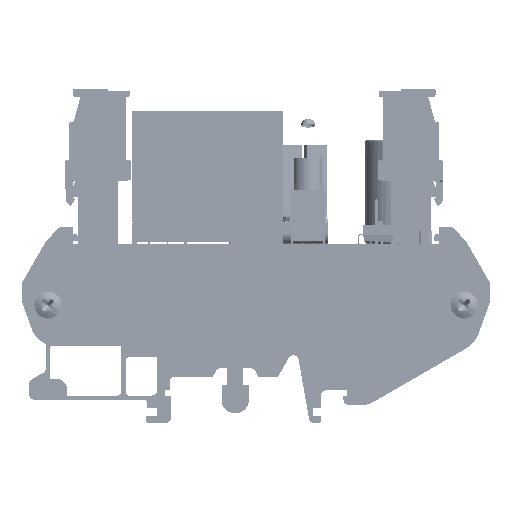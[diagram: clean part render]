
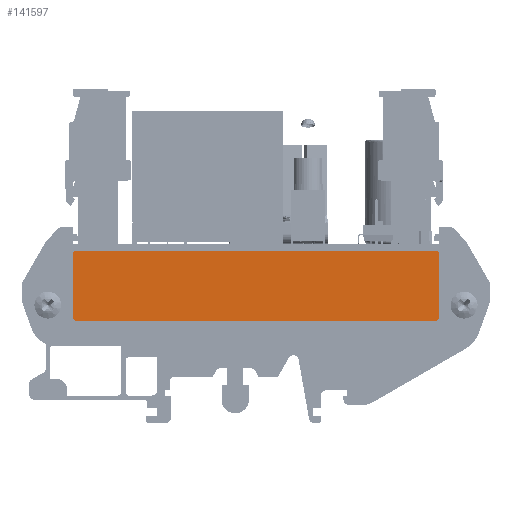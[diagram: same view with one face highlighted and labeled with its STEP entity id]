
A CAD part, left-side view. The second image highlights one B-rep face of the part: STEP entity #141597.
In plain terms, the highlighted planar face has unit normal (-1, 0, 0).
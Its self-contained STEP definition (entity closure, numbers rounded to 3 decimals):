
#3959=FACE_OUTER_BOUND('',#11402,.T.);
#11402=EDGE_LOOP('',(#89903,#89904,#89905,#89906,#89907,#89908,#89909,#89910));
#19590=CIRCLE('',#149146,0.5);
#19709=CIRCLE('',#149396,0.5);
#19711=CIRCLE('',#149402,0.5);
#19725=CIRCLE('',#149455,0.5);
#24145=LINE('',#200545,#39234);
#24519=LINE('',#201544,#39608);
#24522=LINE('',#201552,#39611);
#24593=LINE('',#201724,#39682);
#39234=VECTOR('',#161742,1000.);
#39608=VECTOR('',#162654,1000.);
#39611=VECTOR('',#162659,1000.);
#39682=VECTOR('',#162846,1000.);
#54378=VERTEX_POINT('',#200542);
#54379=VERTEX_POINT('',#200544);
#54395=VERTEX_POINT('',#200595);
#54733=VERTEX_POINT('',#201535);
#54735=VERTEX_POINT('',#201542);
#54738=VERTEX_POINT('',#201549);
#54739=VERTEX_POINT('',#201551);
#54782=VERTEX_POINT('',#201719);
#68093=EDGE_CURVE('',#54378,#54379,#24145,.T.);
#68119=EDGE_CURVE('',#54379,#54395,#19590,.T.);
#68591=EDGE_CURVE('',#54733,#54378,#19709,.T.);
#68594=EDGE_CURVE('',#54735,#54733,#24519,.T.);
#68597=EDGE_CURVE('',#54739,#54738,#24522,.T.);
#68600=EDGE_CURVE('',#54739,#54735,#19711,.T.);
#68683=EDGE_CURVE('',#54782,#54738,#19725,.T.);
#68684=EDGE_CURVE('',#54395,#54782,#24593,.T.);
#89903=ORIENTED_EDGE('',*,*,#68684,.F.);
#89904=ORIENTED_EDGE('',*,*,#68119,.F.);
#89905=ORIENTED_EDGE('',*,*,#68093,.F.);
#89906=ORIENTED_EDGE('',*,*,#68591,.F.);
#89907=ORIENTED_EDGE('',*,*,#68594,.F.);
#89908=ORIENTED_EDGE('',*,*,#68600,.F.);
#89909=ORIENTED_EDGE('',*,*,#68597,.T.);
#89910=ORIENTED_EDGE('',*,*,#68683,.F.);
#128469=PLANE('',#149457);
#141597=ADVANCED_FACE('',(#3959),#128469,.F.);
#149146=AXIS2_PLACEMENT_3D('',#200596,#161793,#161794);
#149396=AXIS2_PLACEMENT_3D('',#201537,#162646,#162647);
#149402=AXIS2_PLACEMENT_3D('',#201556,#162665,#162666);
#149455=AXIS2_PLACEMENT_3D('',#201721,#162840,#162841);
#149457=AXIS2_PLACEMENT_3D('',#201723,#162844,#162845);
#161742=DIRECTION('',(0.,0.,1.));
#161793=DIRECTION('center_axis',(1.,0.,0.));
#161794=DIRECTION('ref_axis',(0.,-1.,0.));
#162646=DIRECTION('center_axis',(1.,0.,0.));
#162647=DIRECTION('ref_axis',(0.,-1.,0.));
#162654=DIRECTION('',(0.,1.,0.));
#162659=DIRECTION('',(0.,0.,1.));
#162665=DIRECTION('center_axis',(1.,0.,0.));
#162666=DIRECTION('ref_axis',(0.,-1.,0.));
#162840=DIRECTION('center_axis',(1.,0.,0.));
#162841=DIRECTION('ref_axis',(0.,-1.,0.));
#162844=DIRECTION('center_axis',(1.,0.,0.));
#162845=DIRECTION('ref_axis',(0.,1.,0.));
#162846=DIRECTION('',(0.,-1.,0.));
#200542=CARTESIAN_POINT('',(-1.3,71.,-14.2));
#200544=CARTESIAN_POINT('',(-1.3,71.,-1.8));
#200545=CARTESIAN_POINT('',(-1.3,71.,-14.2));
#200595=CARTESIAN_POINT('',(-1.3,70.5,-1.3));
#200596=CARTESIAN_POINT('Origin',(-1.3,70.5,-1.8));
#201535=CARTESIAN_POINT('',(-1.3,70.5,-14.7));
#201537=CARTESIAN_POINT('Origin',(-1.3,70.5,-14.2));
#201542=CARTESIAN_POINT('',(-1.3,1.5,-14.7));
#201544=CARTESIAN_POINT('',(-1.3,1.5,-14.7));
#201549=CARTESIAN_POINT('',(-1.3,1.,-1.8));
#201551=CARTESIAN_POINT('',(-1.3,1.,-14.2));
#201552=CARTESIAN_POINT('',(-1.3,1.,-14.2));
#201556=CARTESIAN_POINT('Origin',(-1.3,1.5,-14.2));
#201719=CARTESIAN_POINT('',(-1.3,1.5,-1.3));
#201721=CARTESIAN_POINT('Origin',(-1.3,1.5,-1.8));
#201723=CARTESIAN_POINT('Origin',(-1.3,56.,-33.65));
#201724=CARTESIAN_POINT('',(-1.3,70.5,-1.3));
